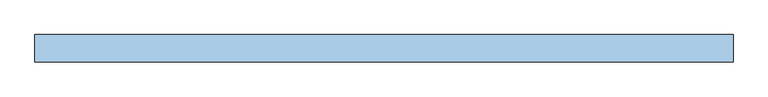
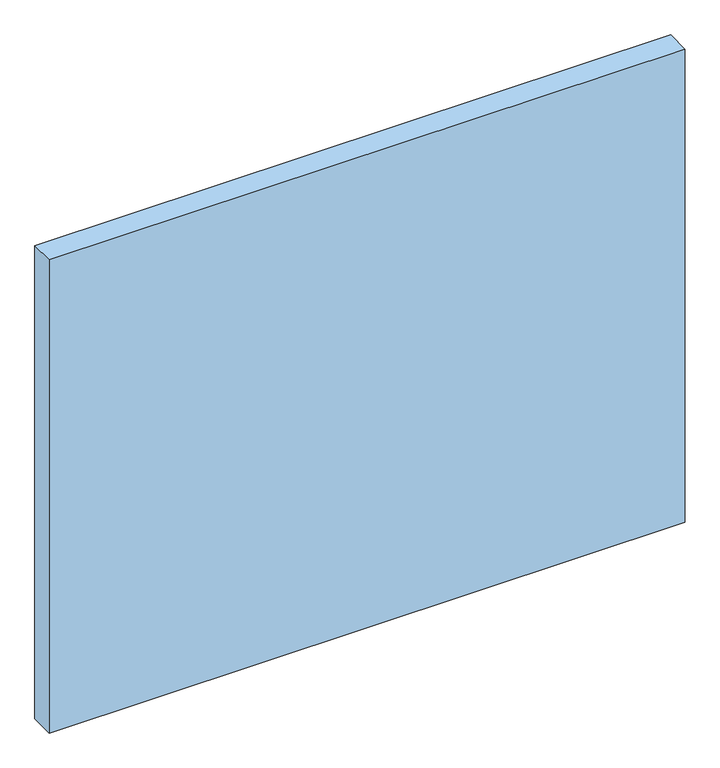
"""IFC4 building model written with IfcOpenShell, lengths in millimetres: window geometry, Dr_Проем-Четверти_окно : ОК."""

from ifc_helpers import new_model, si_unit, frame, origin, place, context, project, spatial, polyline, outline, extrude, source, transform, mapped, element, save


def window_0015052b(model_context):
    return source(origin(), model_context, "Body", "SweptSolid", [
        extrude(outline(polyline([(2055.0, -50.0), (-1785.0, -50.0), (-1785.0, 100.0), (2055.0, 100.0), (2055.0, -50.0)])), frame((0.0, 0.0, -60.0), z_axis=(0.0, 0.0, 1.0), x_axis=(1.0, 0.0, 0.0)), (0.0, 0.0, 1.0), 3020.0),
    ])


if __name__ == "__main__":
    model = new_model("IFC4")
    model_context = context("Model", 3, world=origin())
    ifc_project = project(units=[si_unit("LENGTHUNIT", "METRE", prefix="MILLI")], contexts=[model_context])
    site = spatial("IfcSite", under=ifc_project)
    building = spatial("IfcBuilding", under=site)
    placement = place(None, origin())
    window_shape = window_0015052b(model_context)
    element("IfcWindow", 1, ObjectType="Dr_Проем-Четверти_окно : ОК", at=placement, inside=building, context=model_context, shape_type="MappedRepresentation", body=[
        mapped(window_shape, transform((0.0, 0.0, 0.0), x_axis=(1.0, 0.0, 0.0), y_axis=(0.0, 1.0, 0.0), z_axis=(0.0, 0.0, 1.0))),
    ])
    save(model, "model.ifc")
